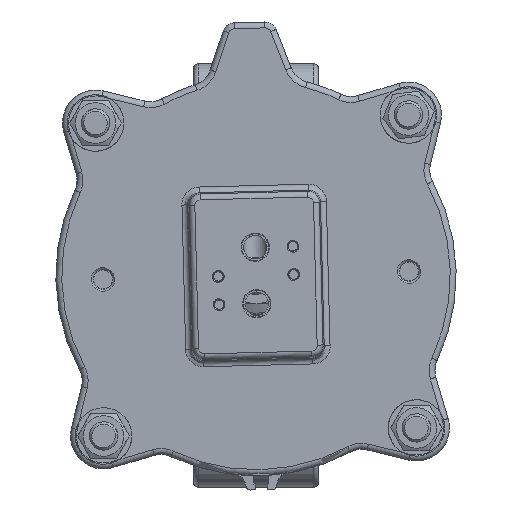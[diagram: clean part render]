
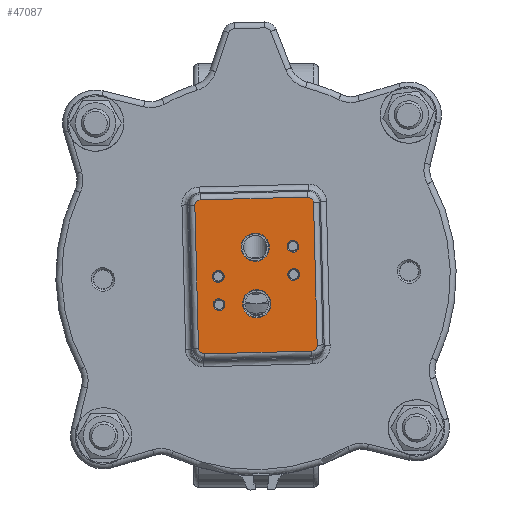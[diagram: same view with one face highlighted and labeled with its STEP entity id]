
A CAD part, front view. The second image highlights one B-rep face of the part: STEP entity #47087.
In plain terms, the highlighted planar face has unit normal (0, -1, 0).
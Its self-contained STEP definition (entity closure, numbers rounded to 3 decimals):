
#847=ELLIPSE('',#51182,2.519,2.5);
#848=ELLIPSE('',#51183,2.519,2.5);
#849=ELLIPSE('',#51184,2.519,2.5);
#850=ELLIPSE('',#51185,2.519,2.5);
#2619=FACE_BOUND('',#7686,.T.);
#2620=FACE_BOUND('',#7687,.T.);
#2621=FACE_BOUND('',#7688,.T.);
#2622=FACE_BOUND('',#7689,.T.);
#2623=FACE_BOUND('',#7690,.T.);
#2624=FACE_BOUND('',#7691,.T.);
#3258=PLANE('',#51181);
#4802=FACE_OUTER_BOUND('',#7685,.T.);
#7685=EDGE_LOOP('',(#34283,#34284,#34285,#34286,#34287,#34288,#34289,#34290));
#7686=EDGE_LOOP('',(#34291));
#7687=EDGE_LOOP('',(#34292));
#7688=EDGE_LOOP('',(#34293));
#7689=EDGE_LOOP('',(#34294));
#7690=EDGE_LOOP('',(#34295));
#7691=EDGE_LOOP('',(#34296));
#10565=LINE('',#79956,#12938);
#10566=LINE('',#79960,#12939);
#10567=LINE('',#79964,#12940);
#10568=LINE('',#79967,#12941);
#12938=VECTOR('',#60351,10.);
#12939=VECTOR('',#60354,10.);
#12940=VECTOR('',#60357,10.);
#12941=VECTOR('',#60360,10.);
#15557=CIRCLE('',#51180,2.5);
#15558=CIRCLE('',#51186,2.5);
#15559=CIRCLE('',#51187,2.5);
#15560=CIRCLE('',#51188,6.);
#15561=CIRCLE('',#51189,6.);
#15562=CIRCLE('',#51190,2.5);
#19468=VERTEX_POINT('',#79948);
#19469=VERTEX_POINT('',#79952);
#19470=VERTEX_POINT('',#79953);
#19471=VERTEX_POINT('',#79955);
#19472=VERTEX_POINT('',#79957);
#19473=VERTEX_POINT('',#79959);
#19474=VERTEX_POINT('',#79961);
#19475=VERTEX_POINT('',#79963);
#19476=VERTEX_POINT('',#79965);
#19477=VERTEX_POINT('',#79968);
#19478=VERTEX_POINT('',#79970);
#19479=VERTEX_POINT('',#79972);
#19480=VERTEX_POINT('',#79974);
#19481=VERTEX_POINT('',#79976);
#24809=EDGE_CURVE('',#19468,#19468,#15557,.T.);
#24810=EDGE_CURVE('',#19469,#19470,#847,.T.);
#24811=EDGE_CURVE('',#19471,#19469,#10565,.T.);
#24812=EDGE_CURVE('',#19472,#19471,#848,.T.);
#24813=EDGE_CURVE('',#19473,#19472,#10566,.T.);
#24814=EDGE_CURVE('',#19474,#19473,#849,.T.);
#24815=EDGE_CURVE('',#19475,#19474,#10567,.T.);
#24816=EDGE_CURVE('',#19476,#19475,#850,.T.);
#24817=EDGE_CURVE('',#19470,#19476,#10568,.T.);
#24818=EDGE_CURVE('',#19477,#19477,#15558,.T.);
#24819=EDGE_CURVE('',#19478,#19478,#15559,.T.);
#24820=EDGE_CURVE('',#19479,#19479,#15560,.T.);
#24821=EDGE_CURVE('',#19480,#19480,#15561,.T.);
#24822=EDGE_CURVE('',#19481,#19481,#15562,.T.);
#34283=ORIENTED_EDGE('',*,*,#24810,.F.);
#34284=ORIENTED_EDGE('',*,*,#24811,.F.);
#34285=ORIENTED_EDGE('',*,*,#24812,.F.);
#34286=ORIENTED_EDGE('',*,*,#24813,.F.);
#34287=ORIENTED_EDGE('',*,*,#24814,.F.);
#34288=ORIENTED_EDGE('',*,*,#24815,.F.);
#34289=ORIENTED_EDGE('',*,*,#24816,.F.);
#34290=ORIENTED_EDGE('',*,*,#24817,.F.);
#34291=ORIENTED_EDGE('',*,*,#24818,.F.);
#34292=ORIENTED_EDGE('',*,*,#24819,.F.);
#34293=ORIENTED_EDGE('',*,*,#24820,.F.);
#34294=ORIENTED_EDGE('',*,*,#24821,.F.);
#34295=ORIENTED_EDGE('',*,*,#24822,.F.);
#34296=ORIENTED_EDGE('',*,*,#24809,.F.);
#47087=ADVANCED_FACE('',(#4802,#2619,#2620,#2621,#2622,#2623,#2624),#3258,
 .F.);
#51180=AXIS2_PLACEMENT_3D('',#79950,#60345,#60346);
#51181=AXIS2_PLACEMENT_3D('',#79951,#60347,#60348);
#51182=AXIS2_PLACEMENT_3D('',#79954,#60349,#60350);
#51183=AXIS2_PLACEMENT_3D('',#79958,#60352,#60353);
#51184=AXIS2_PLACEMENT_3D('',#79962,#60355,#60356);
#51185=AXIS2_PLACEMENT_3D('',#79966,#60358,#60359);
#51186=AXIS2_PLACEMENT_3D('',#79969,#60361,#60362);
#51187=AXIS2_PLACEMENT_3D('',#79971,#60363,#60364);
#51188=AXIS2_PLACEMENT_3D('',#79973,#60365,#60366);
#51189=AXIS2_PLACEMENT_3D('',#79975,#60367,#60368);
#51190=AXIS2_PLACEMENT_3D('',#79977,#60369,#60370);
#60345=DIRECTION('center_axis',(0.,-1.,0.));
#60346=DIRECTION('ref_axis',(0.026,0.,-1.));
#60347=DIRECTION('center_axis',(0.,1.,0.));
#60348=DIRECTION('ref_axis',(0.026,0.,-1.));
#60349=DIRECTION('center_axis',(0.,1.,0.));
#60350=DIRECTION('ref_axis',(0.689,0.,0.725));
#60351=DIRECTION('',(1.,0.,0.026));
#60352=DIRECTION('center_axis',(0.,1.,0.));
#60353=DIRECTION('ref_axis',(-0.725,0.,0.689));
#60354=DIRECTION('',(-0.026,0.,1.));
#60355=DIRECTION('center_axis',(0.,1.,0.));
#60356=DIRECTION('ref_axis',(-0.689,0.,-0.725));
#60357=DIRECTION('',(-1.,0.,-0.026));
#60358=DIRECTION('center_axis',(0.,1.,0.));
#60359=DIRECTION('ref_axis',(0.725,0.,-0.689));
#60360=DIRECTION('',(0.026,0.,-1.));
#60361=DIRECTION('center_axis',(0.,-1.,0.));
#60362=DIRECTION('ref_axis',(0.026,0.,-1.));
#60363=DIRECTION('center_axis',(0.,-1.,0.));
#60364=DIRECTION('ref_axis',(0.026,0.,-1.));
#60365=DIRECTION('center_axis',(0.,-1.,0.));
#60366=DIRECTION('ref_axis',(0.026,0.,-1.));
#60367=DIRECTION('center_axis',(0.,-1.,0.));
#60368=DIRECTION('ref_axis',(0.026,0.,-1.));
#60369=DIRECTION('center_axis',(0.,-1.,0.));
#60370=DIRECTION('ref_axis',(0.026,0.,-1.));
#79948=CARTESIAN_POINT('',(-15.752,-810.,-9.906));
#79950=CARTESIAN_POINT('Origin',(-15.688,-810.,-12.406));
#79951=CARTESIAN_POINT('Origin',(0.,-810.,
0.));
#79952=CARTESIAN_POINT('',(21.874,-810.,33.28));
#79953=CARTESIAN_POINT('',(24.427,-810.,30.854));
#79954=CARTESIAN_POINT('Origin',(21.919,-810.,30.771));
#79955=CARTESIAN_POINT('',(-23.548,-810.,32.117));
#79956=CARTESIAN_POINT('',(12.908,-810.,33.05));
#79957=CARTESIAN_POINT('',(-25.974,-810.,29.564));
#79958=CARTESIAN_POINT('Origin',(-23.465,-810.,29.609));
#79959=CARTESIAN_POINT('',(-24.427,-810.,-30.854));
#79960=CARTESIAN_POINT('',(-25.649,-810.,16.849));
#79961=CARTESIAN_POINT('',(-21.874,-810.,-33.28));
#79962=CARTESIAN_POINT('Origin',(-21.919,-810.,-30.771));
#79963=CARTESIAN_POINT('',(23.548,-810.,-32.117));
#79964=CARTESIAN_POINT('',(-12.908,-810.,-33.05));
#79965=CARTESIAN_POINT('',(25.974,-810.,-29.564));
#79966=CARTESIAN_POINT('Origin',(23.465,-810.,-29.609));
#79967=CARTESIAN_POINT('',(25.649,-810.,-16.849));
#79968=CARTESIAN_POINT('',(-16.059,-810.,2.09));
#79969=CARTESIAN_POINT('Origin',(-15.995,-810.,-0.41));
#79970=CARTESIAN_POINT('',(15.624,-810.,14.905));
#79971=CARTESIAN_POINT('Origin',(15.688,-810.,12.406));
#79972=CARTESIAN_POINT('',(-0.461,-810.,17.994));
#79973=CARTESIAN_POINT('Origin',(-0.307,-810.,11.996));
#79974=CARTESIAN_POINT('',(0.154,-810.,-5.998));
#79975=CARTESIAN_POINT('Origin',(0.307,-810.,-11.996));
#79976=CARTESIAN_POINT('',(15.931,-810.,2.909));
#79977=CARTESIAN_POINT('Origin',(15.995,-810.,0.41));
